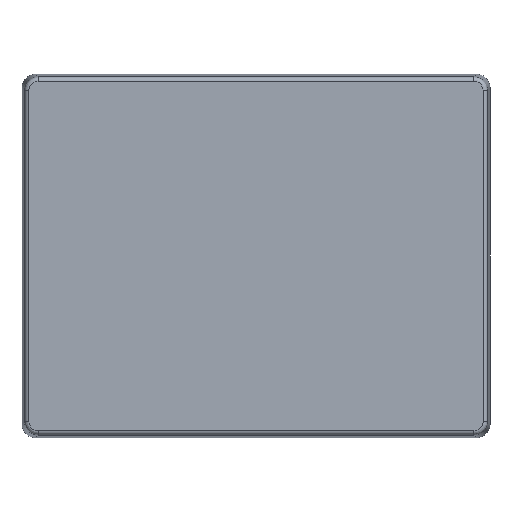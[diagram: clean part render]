
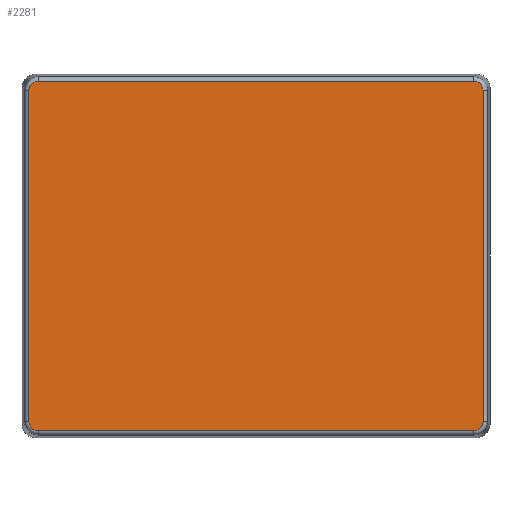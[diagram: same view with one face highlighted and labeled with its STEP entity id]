
A CAD part, front view. The second image highlights one B-rep face of the part: STEP entity #2281.
In plain terms, the highlighted planar face has unit normal (0, -1, 0).
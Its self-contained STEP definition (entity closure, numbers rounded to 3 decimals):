
#44 = LINE ( 'NONE', #1969, #1631 ) ;
#236 = VERTEX_POINT ( 'NONE', #1571 ) ;
#264 = ORIENTED_EDGE ( 'NONE', *, *, #1866, .T. ) ;
#280 =( BOUNDED_CURVE ( )  B_SPLINE_CURVE ( 3, ( #2088, #2123, #2179, #2099 ),
 .UNSPECIFIED., .F., .T. ) 
 B_SPLINE_CURVE_WITH_KNOTS ( ( 4, 4 ),
 ( 2.357, 3.926 ),
 .UNSPECIFIED. ) 
 CURVE ( )  GEOMETRIC_REPRESENTATION_ITEM ( )  RATIONAL_B_SPLINE_CURVE ( ( 1., 0.805, 0.805, 1. ) ) 
 REPRESENTATION_ITEM ( '' )  );
#282 = EDGE_CURVE ( 'NONE', #236, #1205, #345, .T. ) ;
#294 = EDGE_CURVE ( 'NONE', #1205, #1985, #1108, .T. ) ;
#345 =( BOUNDED_CURVE ( )  B_SPLINE_CURVE ( 3, ( #780, #2558, #2546, #2517 ),
 .UNSPECIFIED., .F., .T. ) 
 B_SPLINE_CURVE_WITH_KNOTS ( ( 4, 4 ),
 ( 2.357, 3.926 ),
 .UNSPECIFIED. ) 
 CURVE ( )  GEOMETRIC_REPRESENTATION_ITEM ( )  RATIONAL_B_SPLINE_CURVE ( ( 1., 0.805, 0.805, 1. ) ) 
 REPRESENTATION_ITEM ( '' )  );
#348 = ORIENTED_EDGE ( 'NONE', *, *, #294, .T. ) ;
#353 = EDGE_CURVE ( 'NONE', #575, #1827, #2030, .T. ) ;
#359 = EDGE_CURVE ( 'NONE', #1827, #2009, #280, .T. ) ;
#460 = VECTOR ( 'NONE', #2374, 1000. ) ;
#472 = ORIENTED_EDGE ( 'NONE', *, *, #359, .T. ) ;
#519 = CARTESIAN_POINT ( 'NONE',  ( 53.181, 0., -40.041 ) ) ;
#523 = CARTESIAN_POINT ( 'NONE',  ( 53.181, 0., -38.782 ) ) ;
#537 = CARTESIAN_POINT ( 'NONE',  ( 52.291, 0., -40.931 ) ) ;
#575 = VERTEX_POINT ( 'NONE', #1107 ) ;
#656 = CARTESIAN_POINT ( 'NONE',  ( 51.032, 0., -40.931 ) ) ;
#780 = CARTESIAN_POINT ( 'NONE',  ( 53.181, 0., 38.782 ) ) ;
#820 = VERTEX_POINT ( 'NONE', #2505 ) ;
#1003 = CARTESIAN_POINT ( 'NONE',  ( -53.181, 0., 38.782 ) ) ;
#1006 = CARTESIAN_POINT ( 'NONE',  ( -53.181, 0., 40.041 ) ) ;
#1048 = CARTESIAN_POINT ( 'NONE',  ( -51.032, 0., 40.931 ) ) ;
#1058 = CARTESIAN_POINT ( 'NONE',  ( -52.291, 0., 40.931 ) ) ;
#1071 =( BOUNDED_CURVE ( )  B_SPLINE_CURVE ( 3, ( #656, #537, #519, #523 ),
 .UNSPECIFIED., .F., .F. ) 
 B_SPLINE_CURVE_WITH_KNOTS ( ( 4, 4 ),
 ( 2.357, 3.926 ),
 .UNSPECIFIED. ) 
 CURVE ( )  GEOMETRIC_REPRESENTATION_ITEM ( )  RATIONAL_B_SPLINE_CURVE ( ( 1., 0.805, 0.805, 1. ) ) 
 REPRESENTATION_ITEM ( '' )  );
#1078 = EDGE_LOOP ( 'NONE', ( #2262, #264, #1404, #1501, #348, #1504, #1836, #472 ) ) ;
#1107 = CARTESIAN_POINT ( 'NONE',  ( -53.181, 0., 38.782 ) ) ;
#1108 = LINE ( 'NONE', #2392, #460 ) ;
#1183 = CARTESIAN_POINT ( 'NONE',  ( -53.181, 0., -38.782 ) ) ;
#1205 = VERTEX_POINT ( 'NONE', #1496 ) ;
#1253 = FACE_OUTER_BOUND ( 'NONE', #1078, .T. ) ;
#1344 = DIRECTION ( 'NONE',  ( 0., 0., 1. ) ) ;
#1348 = DIRECTION ( 'NONE',  ( 0., 1., 0. ) ) ;
#1350 = CARTESIAN_POINT ( 'NONE',  ( 0., 0., 0. ) ) ;
#1363 = PLANE ( 'NONE',  #2473 ) ;
#1404 = ORIENTED_EDGE ( 'NONE', *, *, #2146, .T. ) ;
#1478 = VECTOR ( 'NONE', #2293, 1000. ) ;
#1496 = CARTESIAN_POINT ( 'NONE',  ( 51.032, 0., 40.931 ) ) ;
#1501 = ORIENTED_EDGE ( 'NONE', *, *, #282, .T. ) ;
#1504 = ORIENTED_EDGE ( 'NONE', *, *, #2340, .T. ) ;
#1561 = CARTESIAN_POINT ( 'NONE',  ( 51.032, 0., -40.931 ) ) ;
#1569 = VECTOR ( 'NONE', #1857, 1000. ) ;
#1571 = CARTESIAN_POINT ( 'NONE',  ( 53.181, 0., 38.782 ) ) ;
#1631 = VECTOR ( 'NONE', #1941, 1000. ) ;
#1827 = VERTEX_POINT ( 'NONE', #1183 ) ;
#1836 = ORIENTED_EDGE ( 'NONE', *, *, #353, .T. ) ;
#1857 = DIRECTION ( 'NONE',  ( 1., 0., 0. ) ) ;
#1866 = EDGE_CURVE ( 'NONE', #2245, #820, #1071, .T. ) ;
#1881 = CARTESIAN_POINT ( 'NONE',  ( 0., 0., -40.931 ) ) ;
#1920 =( BOUNDED_CURVE ( )  B_SPLINE_CURVE ( 3, ( #1048, #1058, #1006, #1003 ),
 .UNSPECIFIED., .F., .F. ) 
 B_SPLINE_CURVE_WITH_KNOTS ( ( 4, 4 ),
 ( 2.357, 3.926 ),
 .UNSPECIFIED. ) 
 CURVE ( )  GEOMETRIC_REPRESENTATION_ITEM ( )  RATIONAL_B_SPLINE_CURVE ( ( 1., 0.805, 0.805, 1. ) ) 
 REPRESENTATION_ITEM ( '' )  );
#1941 = DIRECTION ( 'NONE',  ( 0., 0., 1. ) ) ;
#1969 = CARTESIAN_POINT ( 'NONE',  ( 53.181, 0., 0. ) ) ;
#1985 = VERTEX_POINT ( 'NONE', #2382 ) ;
#2009 = VERTEX_POINT ( 'NONE', #2266 ) ;
#2030 = LINE ( 'NONE', #2167, #1478 ) ;
#2088 = CARTESIAN_POINT ( 'NONE',  ( -53.181, 0., -38.782 ) ) ;
#2099 = CARTESIAN_POINT ( 'NONE',  ( -51.032, 0., -40.931 ) ) ;
#2123 = CARTESIAN_POINT ( 'NONE',  ( -53.181, 0., -40.041 ) ) ;
#2146 = EDGE_CURVE ( 'NONE', #820, #236, #44, .T. ) ;
#2167 = CARTESIAN_POINT ( 'NONE',  ( -53.181, 0., 0. ) ) ;
#2179 = CARTESIAN_POINT ( 'NONE',  ( -52.291, 0., -40.931 ) ) ;
#2189 = EDGE_CURVE ( 'NONE', #2009, #2245, #2655, .T. ) ;
#2245 = VERTEX_POINT ( 'NONE', #1561 ) ;
#2262 = ORIENTED_EDGE ( 'NONE', *, *, #2189, .T. ) ;
#2266 = CARTESIAN_POINT ( 'NONE',  ( -51.032, 0., -40.931 ) ) ;
#2281 = ADVANCED_FACE ( 'NONE', ( #1253 ), #1363, .F. ) ;
#2293 = DIRECTION ( 'NONE',  ( 0., 0., -1. ) ) ;
#2340 = EDGE_CURVE ( 'NONE', #1985, #575, #1920, .T. ) ;
#2374 = DIRECTION ( 'NONE',  ( -1., 0., 0. ) ) ;
#2382 = CARTESIAN_POINT ( 'NONE',  ( -51.032, 0., 40.931 ) ) ;
#2392 = CARTESIAN_POINT ( 'NONE',  ( 0., 0., 40.931 ) ) ;
#2473 = AXIS2_PLACEMENT_3D ( 'NONE', #1350, #1348, #1344 ) ;
#2505 = CARTESIAN_POINT ( 'NONE',  ( 53.181, 0., -38.782 ) ) ;
#2517 = CARTESIAN_POINT ( 'NONE',  ( 51.032, 0., 40.931 ) ) ;
#2546 = CARTESIAN_POINT ( 'NONE',  ( 52.291, 0., 40.931 ) ) ;
#2558 = CARTESIAN_POINT ( 'NONE',  ( 53.181, 0., 40.041 ) ) ;
#2655 = LINE ( 'NONE', #1881, #1569 ) ;
